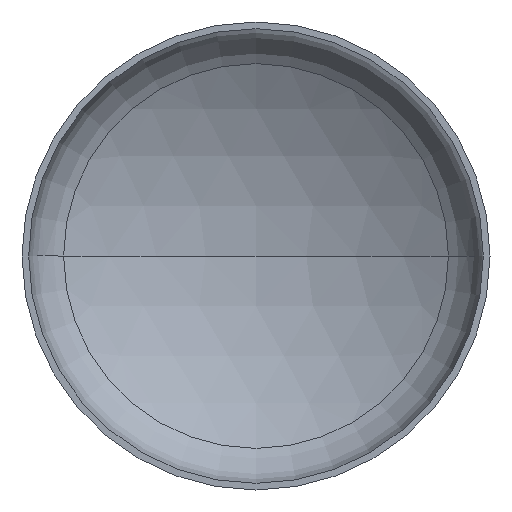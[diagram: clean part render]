
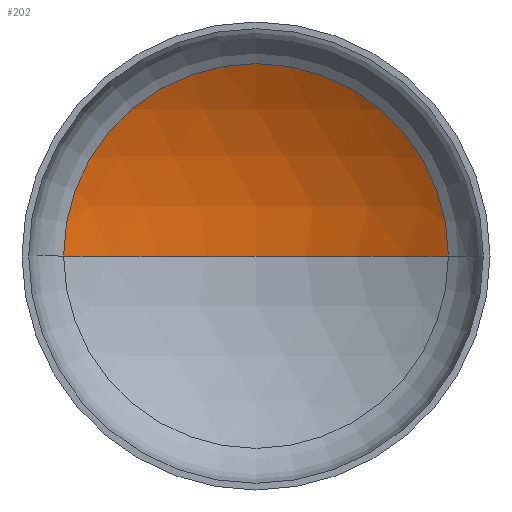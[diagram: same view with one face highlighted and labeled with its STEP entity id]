
A CAD part, front view. The second image highlights one B-rep face of the part: STEP entity #202.
In plain terms, the highlighted spherical face has radius 2240 mm.
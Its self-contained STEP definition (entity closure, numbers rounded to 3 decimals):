
#6 = DIRECTION ( 'NONE',  ( -1., 0., 0. ) ) ;
#8 = DIRECTION ( 'NONE',  ( 0., 0., -1. ) ) ;
#13 = EDGE_LOOP ( 'NONE', ( #91, #35, #27 ) ) ;
#14 = AXIS2_PLACEMENT_3D ( 'NONE', #165, #164, #231 ) ;
#24 = CIRCLE ( 'NONE', #32, 1150.939 ) ;
#27 = ORIENTED_EDGE ( 'NONE', *, *, #93, .T. ) ;
#29 = AXIS2_PLACEMENT_3D ( 'NONE', #210, #151, #301 ) ;
#31 = AXIS2_PLACEMENT_3D ( 'NONE', #84, #8, #6 ) ;
#32 = AXIS2_PLACEMENT_3D ( 'NONE', #232, #401, #256 ) ;
#35 = ORIENTED_EDGE ( 'NONE', *, *, #94, .T. ) ;
#51 = VERTEX_POINT ( 'NONE', #243 ) ;
#84 = CARTESIAN_POINT ( 'NONE',  ( 0., -1432.804, 0. ) ) ;
#88 = VERTEX_POINT ( 'NONE', #291 ) ;
#91 = ORIENTED_EDGE ( 'NONE', *, *, #97, .F. ) ;
#93 = EDGE_CURVE ( 'NONE', #88, #138, #24, .T. ) ;
#94 = EDGE_CURVE ( 'NONE', #51, #88, #170, .T. ) ;
#97 = EDGE_CURVE ( 'NONE', #51, #138, #287, .T. ) ;
#138 = VERTEX_POINT ( 'NONE', #276 ) ;
#150 = SPHERICAL_SURFACE ( 'NONE', #14, 2240. ) ;
#151 = DIRECTION ( 'NONE',  ( 0., 0., 1. ) ) ;
#164 = DIRECTION ( 'NONE',  ( 0., 0., -1. ) ) ;
#165 = CARTESIAN_POINT ( 'NONE',  ( 0., -1432.804, 0. ) ) ;
#170 = CIRCLE ( 'NONE', #31, 2240. ) ;
#202 = ADVANCED_FACE ( 'NONE', ( #407 ), #150, .F. ) ;
#210 = CARTESIAN_POINT ( 'NONE',  ( 0., -1432.804, 0. ) ) ;
#231 = DIRECTION ( 'NONE',  ( -1., 0., 0. ) ) ;
#232 = CARTESIAN_POINT ( 'NONE',  ( 0., 488.898, 0. ) ) ;
#243 = CARTESIAN_POINT ( 'NONE',  ( 0., 807.196, 0. ) ) ;
#256 = DIRECTION ( 'NONE',  ( 1., 0., 0. ) ) ;
#276 = CARTESIAN_POINT ( 'NONE',  ( -1150.939, 488.898, 0. ) ) ;
#287 = CIRCLE ( 'NONE', #29, 2240. ) ;
#291 = CARTESIAN_POINT ( 'NONE',  ( 1150.939, 488.898, 0. ) ) ;
#301 = DIRECTION ( 'NONE',  ( 1., 0., 0. ) ) ;
#401 = DIRECTION ( 'NONE',  ( 0., -1., 0. ) ) ;
#407 = FACE_OUTER_BOUND ( 'NONE', #13, .T. ) ;
